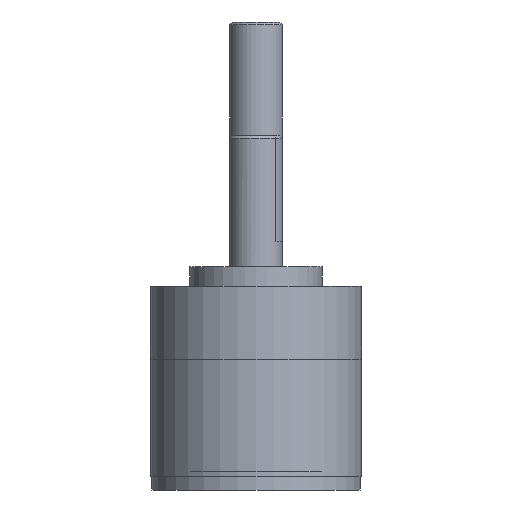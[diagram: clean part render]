
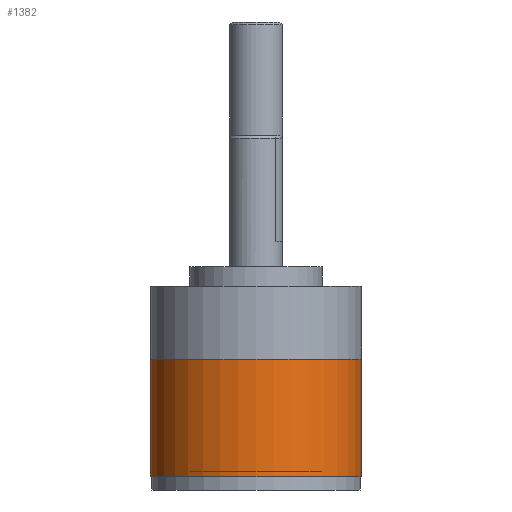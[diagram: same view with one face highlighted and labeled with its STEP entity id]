
A CAD part, left-side view. The second image highlights one B-rep face of the part: STEP entity #1382.
In plain terms, the highlighted cylindrical face has radius 8 mm (diameter 16 mm), a full revolution.
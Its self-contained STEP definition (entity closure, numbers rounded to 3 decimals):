
#1297=CYLINDRICAL_SURFACE('',#4201,8.);
#1382=ADVANCED_FACE('',(#1760,#1761),#1297,.T.);
#1760=FACE_BOUND('',#2020,.T.);
#1761=FACE_BOUND('',#2021,.T.);
#2020=EDGE_LOOP('',(#2415));
#2021=EDGE_LOOP('',(#2416));
#2415=ORIENTED_EDGE('',*,*,#3588,.F.);
#2416=ORIENTED_EDGE('',*,*,#3597,.T.);
#3257=VERTEX_POINT('',#5330);
#3266=VERTEX_POINT('',#5353);
#3588=EDGE_CURVE('',#3257,#3257,#4018,.T.);
#3597=EDGE_CURVE('',#3266,#3266,#4027,.T.);
#4018=CIRCLE('',#4185,8.);
#4027=CIRCLE('',#4199,8.);
#4185=AXIS2_PLACEMENT_3D('',#5329,#4557,#4558);
#4199=AXIS2_PLACEMENT_3D('',#5352,#4585,#4586);
#4201=AXIS2_PLACEMENT_3D('',#5355,#4589,#4590);
#4557=DIRECTION('',(0.,0.,-1.));
#4558=DIRECTION('',(1.,0.,0.));
#4585=DIRECTION('',(0.,0.,-1.));
#4586=DIRECTION('',(1.,0.,0.));
#4589=DIRECTION('',(0.,0.,1.));
#4590=DIRECTION('',(1.,0.,0.));
#5329=CARTESIAN_POINT('',(0.,0.,1.));
#5330=CARTESIAN_POINT('',(8.,0.,1.));
#5352=CARTESIAN_POINT('',(0.,0.,9.899));
#5353=CARTESIAN_POINT('',(8.,0.,9.899));
#5355=CARTESIAN_POINT('',(0.,0.,9.9));
